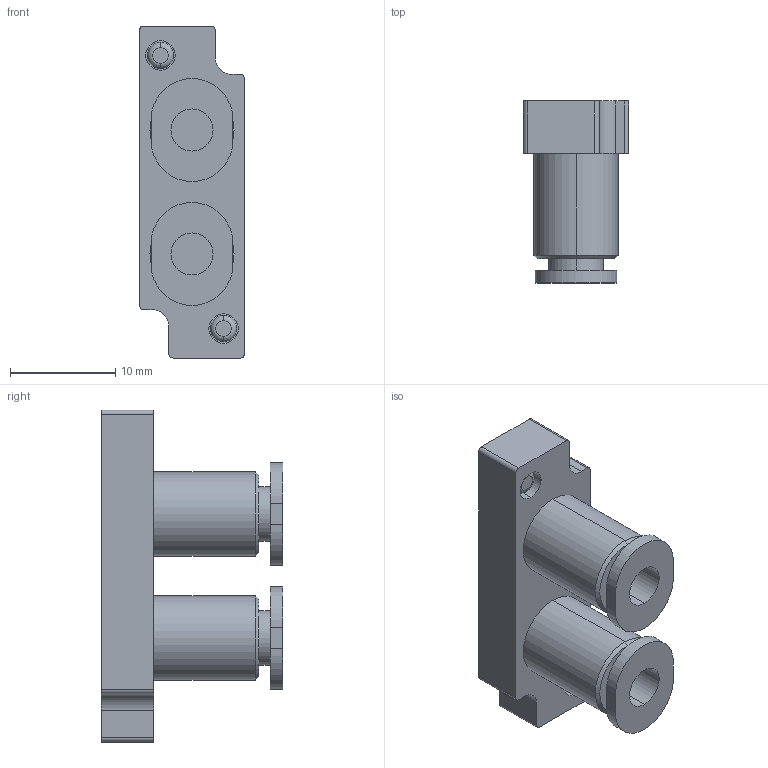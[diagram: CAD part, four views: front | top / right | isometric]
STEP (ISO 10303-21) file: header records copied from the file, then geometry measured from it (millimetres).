
FILE_DESCRIPTION( (''), '2;1');
FILE_NAME ('CVICAD02.14868.F10_Port-FJ5_4575.stp','2020-09-01T14:04:00',(''),(''),'spGate 12.6.6','','');
FILE_SCHEMA (('AUTOMOTIVE_DESIGN'));
Length unit declared in the file: millimetre
Bounding box: 10 x 17.3 x 31.6 mm (x, y, z)
Volume: 2373.1 mm3; surface area: 2051.1 mm2
Topology: 1 solids, 1 shells, 62 faces, 140 edges, 92 vertices
Faces by surface type: cylinder 28, plane 26, bspline 8
Entity records: 3031 total; most frequent: CARTESIAN_POINT 456, DIRECTION 292, ORIENTED_EDGE 280, COLOUR_RGB 203, PRESENTATION_STYLE_ASSIGNMENT 203, STYLED_ITEM 203, EDGE_CURVE 140, DRAUGHTING_PRE_DEFINED_CURVE_FONT 140
